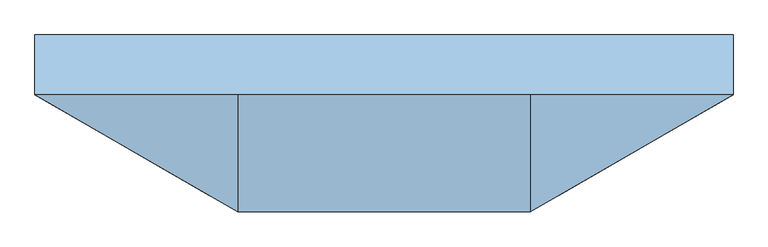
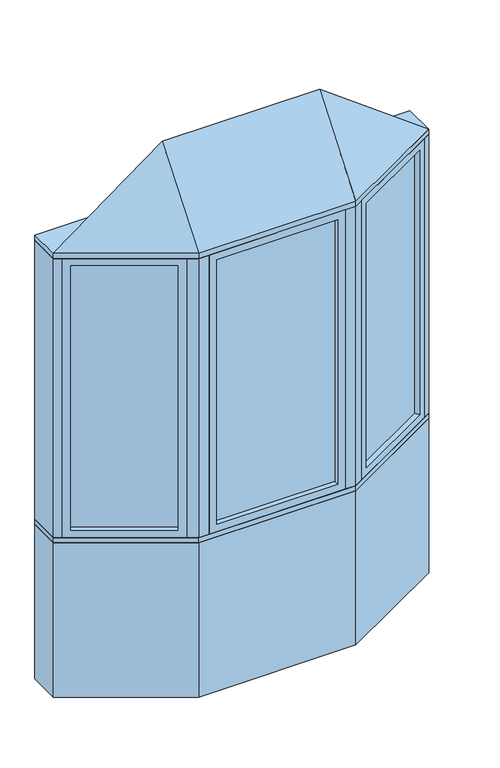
"""IFC4 building model written with IfcOpenShell, lengths in millimetres: window geometry, Pollard_Windows_Tudor Casement Bows and Bays : AML-BAY 30 AFR0514-08-500."""

import ifcopenshell
import ifcopenshell.guid

model = None  # the IFC model being written
_history = None  # IfcOwnerHistory: only IFC2X3 demands one
_inside = {}  # id of a spatial element -> (the spatial element, [elements in it])
_under = {}  # id of a project, library or spatial element -> (it, [spatial elements below it])
_declared = {}  # id of a project -> (the project, [libraries it declares])
_typed = {}  # id of a type object -> (the type object, [elements of that type])
_made_of = {}  # id of a material, layer set ... -> (it, [elements and type objects made of it])


def new_model(schema):
    """Start an empty IFC model of exactly this schema.

    Asked for "IFC4X3", IfcOpenShell would pick the latest addendum, in which some entities
    have other attributes; the version numbers below select the first issue.
    IFC2X3 requires an IfcOwnerHistory on every rooted entity: one is made here for all.
    """
    global model, _history
    if schema == "IFC4X3":
        model = ifcopenshell.file(schema_version=(4, 3, 0, 0))
    else:
        model = ifcopenshell.file(schema=schema)
    _inside.clear()
    _under.clear()
    _declared.clear()
    _typed.clear()
    _made_of.clear()
    _history = None
    if model.schema == "IFC2X3":
        org = make("IfcOrganization", Name="unknown")
        user = make(
            "IfcPersonAndOrganization",
            ThePerson=make("IfcPerson", FamilyName="unknown"),
            TheOrganization=org,
        )
        app = make(
            "IfcApplication",
            ApplicationDeveloper=org,
            Version="unknown",
            ApplicationFullName="unknown",
            ApplicationIdentifier="unknown",
        )
        _history = make(
            "IfcOwnerHistory",
            OwningUser=user,
            OwningApplication=app,
            ChangeAction="ADDED",
            CreationDate=0,
        )
    return model


def make(cls, **values):
    """One entity of the class cls with the attributes given. An attribute that is None is left unset."""
    return model.create_entity(
        cls, **{name: value for name, value in values.items() if value is not None}
    )


def rooted(cls, **values):
    """An entity with a GlobalId (a new one), such as an element, a storey or a relation."""
    return make(cls, GlobalId=ifcopenshell.guid.new(), OwnerHistory=_history, **values)


def si_unit(unit_type, name, prefix=None):
    """IfcSIUnit, for example si_unit("LENGTHUNIT", "METRE", prefix="MILLI")."""
    return make("IfcSIUnit", UnitType=unit_type, Prefix=prefix, Name=name)


def assignment(units):
    """IfcUnitAssignment: the units of a project."""
    return None if units is None else make("IfcUnitAssignment", Units=units)


def point(xyz):
    """IfcCartesianPoint."""
    return None if xyz is None else make("IfcCartesianPoint", Coordinates=xyz)


def direction(xyz):
    """IfcDirection."""
    return None if xyz is None else make("IfcDirection", DirectionRatios=xyz)


def frame(location, z_axis=None, x_axis=None):
    """IfcAxis2Placement3D, a coordinate frame: its origin and axes. An axis left out is left unset."""
    return make(
        "IfcAxis2Placement3D",
        Location=point(location),
        Axis=direction(z_axis),
        RefDirection=direction(x_axis),
    )


def origin():
    """The frame at (0, 0, 0) with its axes left unset."""
    return frame((0.0, 0.0, 0.0))


def origin_with_axes():
    """The frame at (0, 0, 0) with the z axis (0, 0, 1) and the x axis (1, 0, 0) written out."""
    return frame((0.0, 0.0, 0.0), z_axis=(0.0, 0.0, 1.0), x_axis=(1.0, 0.0, 0.0))


def place(relative_to, where):
    """IfcLocalPlacement: puts the frame where relative to a parent placement (None: the world)."""
    return make(
        "IfcLocalPlacement", PlacementRelTo=relative_to, RelativePlacement=where
    )


def context(
    kind, dimensions, precision=None, world=None, true_north=None, identifier=None
):
    """IfcGeometricRepresentationContext, for example the 3D "Model" context."""
    return make(
        "IfcGeometricRepresentationContext",
        ContextIdentifier=identifier,
        ContextType=kind,
        CoordinateSpaceDimension=dimensions,
        Precision=precision,
        WorldCoordinateSystem=world,
        TrueNorth=true_north,
    )


def project(units=None, contexts=None):
    """IfcProject with its units and contexts."""
    return rooted(
        "IfcProject",
        Name="project",
        RepresentationContexts=contexts,
        UnitsInContext=assignment(units),
    )


def spatial(cls, under=None, at=None, **own):
    """A site, building, storey or space (cls), placed at a placement, below another one or the project."""
    s = rooted(cls, ObjectPlacement=at, **own)
    if under is not None:
        _under.setdefault(under.id(), (under, []))[1].append(s)
    return s


def polyline(points):
    """IfcPolyline through the points."""
    return make("IfcPolyline", Points=[point(p) for p in points])


def outline(outer, holes=None, kind="AREA"):
    """IfcArbitraryClosedProfileDef: a profile drawn as a closed curve; with holes, ...WithVoids."""
    if holes is None:
        return make("IfcArbitraryClosedProfileDef", ProfileType=kind, OuterCurve=outer)
    return make(
        "IfcArbitraryProfileDefWithVoids",
        ProfileType=kind,
        OuterCurve=outer,
        InnerCurves=holes,
    )


def extrude(swept, where, along, depth):
    """IfcExtrudedAreaSolid: the profile swept, set in the frame where, extruded along a direction by depth."""
    return make(
        "IfcExtrudedAreaSolid",
        SweptArea=swept,
        Position=where,
        ExtrudedDirection=direction(along),
        Depth=depth,
    )


def faces_of(points, faces, orient=None, outer=None):
    """IfcFace entities. A face is a list of loops; a loop is a list of indices into points, from 0.

    orient and outer hold one flag for each loop. By default every Orientation is true, the
    first loop of a face is its IfcFaceOuterBound and the others are IfcFaceBound.
    """
    made = []
    for i, loops in enumerate(faces):
        bounds = []
        for j, loop in enumerate(loops):
            is_outer = j == 0 if outer is None else outer[i][j]
            bounds.append(
                make(
                    "IfcFaceOuterBound" if is_outer else "IfcFaceBound",
                    Bound=make("IfcPolyLoop", Polygon=[points[k] for k in loop]),
                    Orientation=True if orient is None else orient[i][j],
                )
            )
        made.append(make("IfcFace", Bounds=bounds))
    return made


def faceted_brep(points, faces, orient=None, outer=None, voids=None):
    """IfcFacetedBrep: a solid bounded by flat faces; with voids (closed shells), ...WithVoids."""
    shared = [point(p) for p in points]
    hull = make("IfcClosedShell", CfsFaces=faces_of(shared, faces, orient, outer))
    if voids is None:
        return make("IfcFacetedBrep", Outer=hull)
    return make(
        "IfcFacetedBrepWithVoids",
        Outer=hull,
        Voids=[
            make(cls, CfsFaces=faces_of(shared, fs, o, b)) for cls, fs, o, b in voids
        ],
    )


def shape(context_of_items, identifier, shape_type, items):
    """IfcShapeRepresentation: the items that make up one representation, for example the "Body"."""
    return make(
        "IfcShapeRepresentation",
        ContextOfItems=context_of_items,
        RepresentationIdentifier=identifier,
        RepresentationType=shape_type,
        Items=items,
    )


def source(mapping_origin, context_of_items, identifier, shape_type, items):
    """IfcRepresentationMap: a shape defined once, which mapped items show again and again."""
    return make(
        "IfcRepresentationMap",
        MappingOrigin=mapping_origin,
        MappedRepresentation=shape(context_of_items, identifier, shape_type, items),
    )


def transform(
    local_origin,
    x_axis=None,
    y_axis=None,
    z_axis=None,
    scale=None,
    scale2=None,
    scale3=None,
    uniform=True,
):
    """IfcCartesianTransformationOperator3D, or its non-uniform kind. x_axis, y_axis, z_axis: its Axis1, 2, 3."""
    if uniform:
        return make(
            "IfcCartesianTransformationOperator3D",
            Axis1=direction(x_axis),
            Axis2=direction(y_axis),
            LocalOrigin=point(local_origin),
            Scale=scale,
            Axis3=direction(z_axis),
        )
    return make(
        "IfcCartesianTransformationOperator3DnonUniform",
        Axis1=direction(x_axis),
        Axis2=direction(y_axis),
        LocalOrigin=point(local_origin),
        Scale=scale,
        Axis3=direction(z_axis),
        Scale2=scale2,
        Scale3=scale3,
    )


def mapped(mapping_source, mapping_target):
    """IfcMappedItem: shows the shape of a source again, moved by a transform."""
    return make(
        "IfcMappedItem", MappingSource=mapping_source, MappingTarget=mapping_target
    )


def made_of(thing, what):
    """Note that an element or type object is made of a material, layer set ...; save() writes the relation."""
    if what is not None:
        _made_of.setdefault(what.id(), (what, []))[1].append(thing)
    return thing


def element(
    cls,
    number,
    at=None,
    inside=None,
    cuts=None,
    type_object=None,
    material=None,
    context=None,
    identifier="Body",
    shape_type=None,
    held_by="IfcProductDefinitionShape",
    body=None,
    shapes=None,
    **own,
):
    """One element of the class cls, such as IfcWall. Its Tag is "e" and its number.

    at: its placement. inside: the storey or other place that contains it. cuts: it is an
    opening in that element (IfcRelVoidsElement). A single representation is given by context,
    identifier, shape_type and body (its items); several are given by shapes. held_by: the class
    of the entity that holds the representations. save() writes the other relations.
    """
    e = rooted(cls, Tag="e%d" % number, ObjectPlacement=at, **own)
    if body is not None:
        shapes = [shape(context, identifier, shape_type, body)]
    if shapes is not None:
        e.Representation = make(held_by, Representations=shapes)
    if inside is not None:
        _inside.setdefault(inside.id(), (inside, []))[1].append(e)
    if cuts is not None:
        rooted(
            "IfcRelVoidsElement", RelatingBuildingElement=cuts, RelatedOpeningElement=e
        )
    if type_object is not None:
        _typed.setdefault(type_object.id(), (type_object, []))[1].append(e)
    return made_of(e, material)


def aggregate(whole, parts):
    """IfcRelAggregates: a whole, such as a stair, and the parts it consists of."""
    return rooted("IfcRelAggregates", RelatingObject=whole, RelatedObjects=parts)


def save(model, path):
    """Write the relations noted so far, then the file.

    IfcRelAggregates (storeys below a building ...), IfcRelContainedInSpatialStructure (elements
    in a storey), IfcRelDefinesByType, IfcRelAssociatesMaterial and IfcRelDeclares: one each for
    every whole, place, type object, material and project.
    """
    for whole, parts in _under.values():
        aggregate(whole, parts)
    for where, things in _inside.values():
        rooted(
            "IfcRelContainedInSpatialStructure",
            RelatedElements=things,
            RelatingStructure=where,
        )
    for kind, things in _typed.values():
        rooted("IfcRelDefinesByType", RelatedObjects=things, RelatingType=kind)
    for what, things in _made_of.values():
        rooted("IfcRelAssociatesMaterial", RelatedObjects=things, RelatingMaterial=what)
    for by, libraries in _declared.values():
        rooted("IfcRelDeclares", RelatingContext=by, RelatedDefinitions=libraries)
    model.write(path)


def window_db3cc471(model_context):
    return source(origin(), model_context, "Body", "SolidModel", [
        extrude(outline(polyline([(826.612102, -82.0482469), (423.7320119, -314.6511754), (421.1920119, -310.2517664), (824.072102, -77.6488379), (826.612102, -82.0482469)])), frame((0.0, 0.0, 823.1628), z_axis=(0.0, 0.0, 1.0), x_axis=(1.0, 0.0, 0.0)), (0.0, 0.0, 1.0), 1353.6704),
        faceted_brep([(815.6135794, -88.3982469, 835.8628), (828.3135794, -110.3952922, 835.8628), (828.3135794, -110.3952922, 2164.1332), (815.6135794, -88.3982469, 2164.1332), (824.072102, -77.6488379, 823.1628), (826.612102, -82.0482469, 823.1628), (826.612102, -82.0482469, 2176.8332), (824.072102, -77.6488379, 2176.8332), (800.3735794, -62.0017926, 835.8628), (813.0735794, -83.9988379, 835.8628), (813.0735794, -83.9988379, 2164.1332), (800.3735794, -62.0017926, 2164.1332), (859.3734073, -92.4628922, 799.998), (831.4334073, -44.0693926, 799.998), (831.4334073, -44.0693926, 2199.998), (859.3734073, -92.4628922, 2199.998), (447.4305346, -330.2982207, 2164.1332), (434.7305346, -308.3011754, 2164.1332), (423.7320119, -314.6511754, 2176.8332), (421.1920119, -310.2517664, 2176.8332), (432.1905346, -303.9017664, 2164.1332), (419.4905346, -281.9047211, 2164.1332), (388.4307067, -299.8371211, 2199.998), (416.3707067, -348.2306207, 2199.998), (447.4305346, -330.2982207, 835.8628), (434.7305346, -308.3011754, 835.8628), (423.7320119, -314.6511754, 823.1628), (421.1920119, -310.2517664, 823.1628), (432.1905346, -303.9017664, 835.8628), (419.4905346, -281.9047211, 835.8628), (388.4307067, -299.8371211, 799.998), (416.3707067, -348.2306207, 799.998)], [[[0, 1, 2, 3]], [[4, 5, 6, 7]], [[8, 9, 10, 11]], [[12, 13, 14, 15]], [[3, 2, 16, 17]], [[7, 6, 18, 19]], [[11, 10, 20, 21]], [[15, 14, 22, 23]], [[17, 16, 24, 25]], [[19, 18, 26, 27]], [[21, 20, 28, 29]], [[23, 22, 30, 31]], [[25, 24, 1, 0]], [[5, 26, 18, 6], [3, 17, 25, 0]], [[27, 26, 5, 4]], [[7, 19, 27, 4], [9, 28, 20, 10]], [[29, 28, 9, 8]], [[13, 30, 22, 14], [11, 21, 29, 8]], [[31, 30, 13, 12]], [[15, 23, 31, 12], [1, 24, 16, 2]]]),
        extrude(outline(polyline([(-423.7320119, -314.6511754), (-826.612102, -82.0482469), (-824.072102, -77.6488379), (-421.1920119, -310.2517664), (-423.7320119, -314.6511754)])), frame((0.0, 0.0, 823.1628), z_axis=(0.0, 0.0, 1.0), x_axis=(1.0, 0.0, 0.0)), (0.0, 0.0, 1.0), 1353.6704),
        faceted_brep([(-432.1905346, -303.9017664, 2164.1332), (-419.4905346, -281.9047211, 2164.1332), (-419.4905346, -281.9047211, 835.8628), (-432.1905346, -303.9017664, 835.8628), (-423.7320119, -314.6511754, 2176.8332), (-421.1920119, -310.2517664, 2176.8332), (-421.1920119, -310.2517664, 823.1628), (-423.7320119, -314.6511754, 823.1628), (-447.4305346, -330.2982207, 2164.1332), (-434.7305346, -308.3011754, 2164.1332), (-434.7305346, -308.3011754, 835.8628), (-447.4305346, -330.2982207, 835.8628), (-388.4307067, -299.8371211, 2199.998), (-416.3707067, -348.2306207, 2199.998), (-416.3707067, -348.2306207, 799.998), (-388.4307067, -299.8371211, 799.998), (-800.3735794, -62.0017926, 835.8628), (-813.0735794, -83.9988379, 835.8628), (-824.072102, -77.6488379, 823.1628), (-826.612102, -82.0482469, 823.1628), (-815.6135794, -88.3982469, 835.8628), (-828.3135794, -110.3952922, 835.8628), (-859.3734073, -92.4628922, 799.998), (-831.4334073, -44.0693926, 799.998), (-800.3735794, -62.0017926, 2164.1332), (-813.0735794, -83.9988379, 2164.1332), (-824.072102, -77.6488379, 2176.8332), (-826.612102, -82.0482469, 2176.8332), (-815.6135794, -88.3982469, 2164.1332), (-828.3135794, -110.3952922, 2164.1332), (-859.3734073, -92.4628922, 2199.998), (-831.4334073, -44.0693926, 2199.998)], [[[0, 1, 2, 3]], [[4, 5, 6, 7]], [[8, 9, 10, 11]], [[12, 13, 14, 15]], [[3, 2, 16, 17]], [[7, 6, 18, 19]], [[11, 10, 20, 21]], [[15, 14, 22, 23]], [[17, 16, 24, 25]], [[19, 18, 26, 27]], [[21, 20, 28, 29]], [[23, 22, 30, 31]], [[15, 23, 31, 12], [1, 24, 16, 2]], [[25, 24, 1, 0]], [[5, 26, 18, 6], [3, 17, 25, 0]], [[27, 26, 5, 4]], [[7, 19, 27, 4], [9, 28, 20, 10]], [[29, 28, 9, 8]], [[13, 30, 22, 14], [11, 21, 29, 8]], [[31, 30, 13, 12]]]),
        extrude(outline(polyline([(299.9046365, -347.8306207), (-299.9046365, -347.8306207), (-299.9046365, -342.7506207), (299.9046365, -342.7506207), (299.9046365, -347.8306207)])), frame((0.0, 0.0, 823.1628), z_axis=(0.0, 0.0, 1.0), x_axis=(1.0, 0.0, 0.0)), (0.0, 0.0, 1.0), 1353.6704),
        faceted_brep([(287.2046365, -347.8306207, 835.8628), (287.2046365, -373.2306207, 835.8628), (287.2046365, -373.2306207, 2164.1332), (287.2046365, -347.8306207, 2164.1332), (299.9046365, -342.7506207, 823.1628), (299.9046365, -347.8306207, 823.1628), (299.9046365, -347.8306207, 2176.8332), (299.9046365, -342.7506207, 2176.8332), (287.2046365, -317.3506207, 835.8628), (287.2046365, -342.7506207, 835.8628), (287.2046365, -342.7506207, 2164.1332), (287.2046365, -317.3506207, 2164.1332), (323.0694365, -373.2306207, 799.998), (323.0694365, -317.3506207, 799.998), (323.0694365, -317.3506207, 2199.998), (323.0694365, -373.2306207, 2199.998), (-287.2046365, -373.2306207, 2164.1332), (-287.2046365, -347.8306207, 2164.1332), (-299.9046365, -347.8306207, 2176.8332), (-299.9046365, -342.7506207, 2176.8332), (-287.2046365, -342.7506207, 2164.1332), (-287.2046365, -317.3506207, 2164.1332), (-323.0694365, -317.3506207, 2199.998), (-323.0694365, -373.2306207, 2199.998), (-287.2046365, -373.2306207, 835.8628), (-287.2046365, -347.8306207, 835.8628), (-299.9046365, -347.8306207, 823.1628), (-299.9046365, -342.7506207, 823.1628), (-287.2046365, -342.7506207, 835.8628), (-287.2046365, -317.3506207, 835.8628), (-323.0694365, -317.3506207, 799.998), (-323.0694365, -373.2306207, 799.998)], [[[0, 1, 2, 3]], [[4, 5, 6, 7]], [[8, 9, 10, 11]], [[12, 13, 14, 15]], [[3, 2, 16, 17]], [[7, 6, 18, 19]], [[11, 10, 20, 21]], [[15, 14, 22, 23]], [[17, 16, 24, 25]], [[19, 18, 26, 27]], [[21, 20, 28, 29]], [[23, 22, 30, 31]], [[15, 23, 31, 12], [1, 24, 16, 2]], [[25, 24, 1, 0]], [[5, 26, 18, 6], [3, 17, 25, 0]], [[27, 26, 5, 4]], [[7, 19, 27, 4], [9, 28, 20, 10]], [[29, 28, 9, 8]], [[13, 30, 22, 14], [11, 21, 29, 8]], [[31, 30, 13, 12]]]),
        faceted_brep([(890.0, -74.7806207, 2225.398), (373.0694365, -373.2306207, 2225.398), (-373.0694365, -373.2306207, 2225.398), (-890.0, -74.7806207, 2225.398), (-373.0694365, -74.7806207, 2606.398), (373.0694365, -74.7806207, 2606.398)], [[[0, 1, 2, 3]], [[3, 2, 4]], [[2, 1, 5, 4]], [[1, 0, 5]], [[0, 3, 4, 5]]]),
        extrude(outline(polyline([(-890.0, 77.6193793), (890.0, 77.6193793), (890.0, -74.7806207), (373.0694365, -373.2306207), (-373.0694365, -373.2306207), (-890.0, -74.7806207), (-890.0, 77.6193793)])), frame((0.0, 0.0, 2199.998), z_axis=(0.0, 0.0, 1.0), x_axis=(1.0, 0.0, 0.0)), (0.0, 0.0, 1.0), 25.4),
        extrude(outline(polyline([(-890.0, -74.7806207), (-890.0, 77.6193793), (-849.1645431, 77.6193793), (-849.1645431, -74.7806207), (-859.3734073, -92.4628922), (-890.0, -74.7806207)])), frame((0.0, 0.0, 799.998), z_axis=(0.0, 0.0, 1.0), x_axis=(1.0, 0.0, 0.0)), (0.0, 0.0, 1.0), 1400.0),
        extrude(outline(polyline([(890.0, 77.6193793), (890.0, -74.7806207), (859.3734073, -92.4628922), (849.1645431, -74.7806207), (849.1645431, 77.6193793), (890.0, 77.6193793)])), frame((0.0, 0.0, 799.998), z_axis=(0.0, 0.0, 1.0), x_axis=(1.0, 0.0, 0.0)), (0.0, 0.0, 1.0), 1400.0),
        extrude(outline(polyline([(373.0694365, -373.2306207), (323.0694365, -373.2306207), (323.0694365, -323.2306207), (359.6719769, -323.2306207), (391.3707067, -304.9293505), (416.3707067, -348.2306207), (373.0694365, -373.2306207)])), frame((0.0, 0.0, 799.998), z_axis=(0.0, 0.0, 1.0), x_axis=(1.0, 0.0, 0.0)), (0.0, 0.0, 1.0), 1400.0),
        extrude(outline(polyline([(-373.0694365, -373.2306207), (-416.3707067, -348.2306207), (-391.3707067, -304.9293505), (-359.6719769, -323.2306207), (-323.0694365, -323.2306207), (-323.0694365, -373.2306207), (-373.0694365, -373.2306207)])), frame((0.0, 0.0, 799.998), z_axis=(0.0, 0.0, 1.0), x_axis=(1.0, 0.0, 0.0)), (0.0, 0.0, 1.0), 1400.0),
        extrude(outline(polyline([(-373.0694365, -373.2306207), (-890.0, -74.7806207), (-890.0, 77.6193793), (-849.1645431, 77.6193793), (-332.2339796, -220.8306207), (332.2339796, -220.8306207), (849.1645431, 77.6193793), (890.0, 77.6193793), (890.0, -74.7806207), (373.0694365, -373.2306207), (-373.0694365, -373.2306207)])), frame((0.0, 0.0, 774.598), z_axis=(0.0, 0.0, 1.0), x_axis=(1.0, 0.0, 0.0)), (0.0, 0.0, 1.0), 25.4),
        extrude(outline(polyline([(-890.0, -74.7806207), (-890.0, 77.6193793), (-849.1645431, 77.6193793), (-332.2339796, -220.8306207), (332.2339796, -220.8306207), (849.1645431, 77.6193793), (890.0, 77.6193793), (890.0, -74.7806207), (373.0694365, -373.2306207), (-373.0694365, -373.2306207), (-890.0, -74.7806207)])), origin_with_axes(), (0.0, 0.0, 1.0), 774.598),
    ])


if __name__ == "__main__":
    model = new_model("IFC4")
    model_context = context("Model", 3, world=origin())
    ifc_project = project(units=[si_unit("LENGTHUNIT", "METRE", prefix="MILLI")], contexts=[model_context])
    site = spatial("IfcSite", under=ifc_project)
    building = spatial("IfcBuilding", under=site)
    placement = place(None, origin())
    window_shape = window_db3cc471(model_context)
    element("IfcWindow", 1, ObjectType="Pollard_Windows_Tudor Casement Bows and Bays : AML-BAY 30 AFR0514-08-500", at=placement, inside=building, context=model_context, shape_type="MappedRepresentation", body=[
        mapped(window_shape, transform((0.0, 0.0, 0.0), x_axis=(1.0, 0.0, 0.0), y_axis=(0.0, 1.0, 0.0), z_axis=(0.0, 0.0, 1.0))),
    ])
    save(model, "model.ifc")
